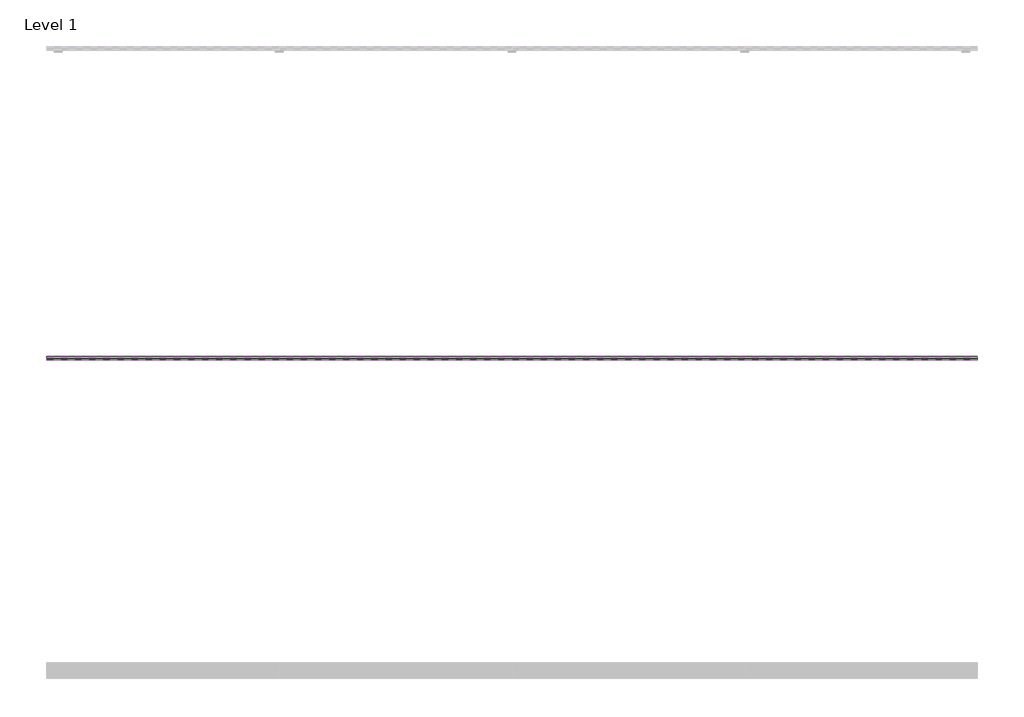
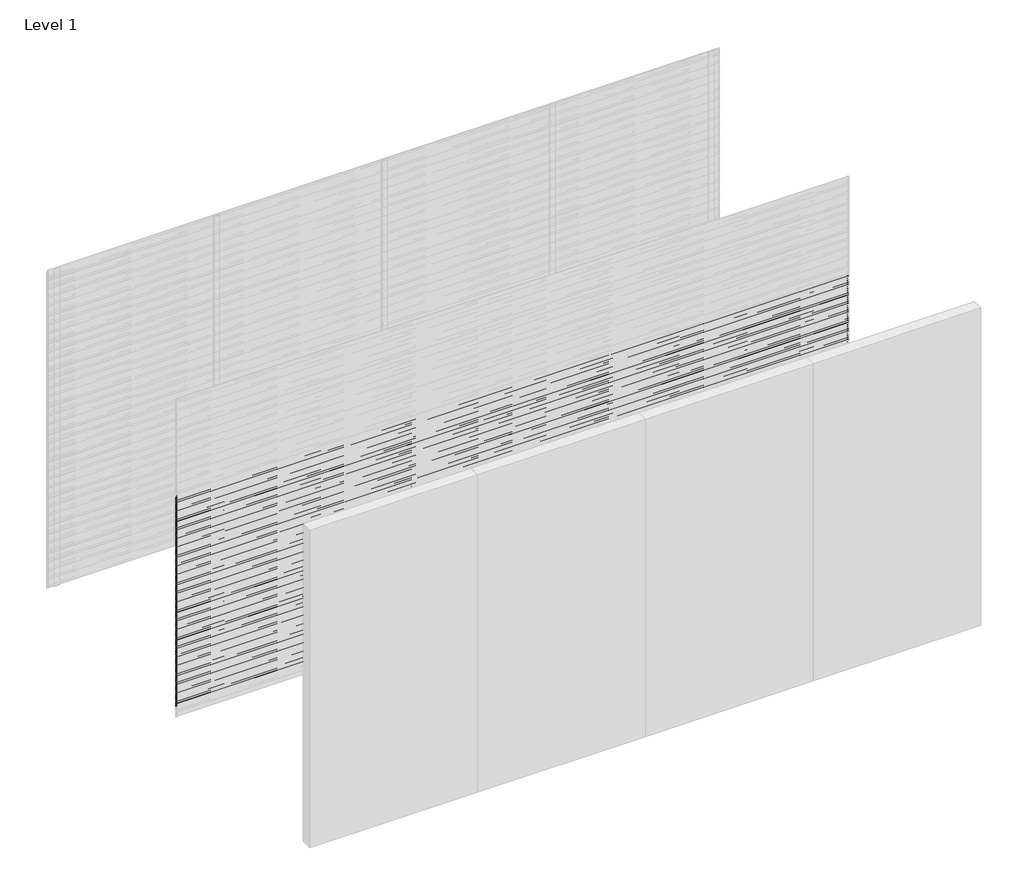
# One storey, part 25 of 31: 99 proxies.
"""IFC4 building model written with IfcOpenShell, lengths in millimetres."""

from ifc_helpers import new_model, si_unit, frame, origin, place, context, project, spatial, polyline, outline, extrude, element, save

model = new_model("IFC4")

# Units and contexts
model_context = context("Model", 3, world=origin())
ifc_project = project(units=[si_unit("LENGTHUNIT", "METRE", prefix="MILLI")], contexts=[model_context])

# Site, building, storey
site = spatial("IfcSite", under=ifc_project)
building = spatial("IfcBuilding", under=site)
storey = spatial("IfcBuildingStorey", under=building, Name="Level 1", Elevation=0.0)

# Proxies
placement = place(None, origin())
element("IfcBuildingElementProxy", 1, Name="Wall Sweeps", at=placement, inside=storey, context=model_context, shape_type="SweptSolid", body=[
    extrude(outline(polyline([(-1995.0, 2080.0), (-1995.0, 2068.942893), (-1976.0, 2053.0), (-1976.0, 2040.0), (-1997.0, 2057.6210923), (-1997.0, 2080.0), (-1995.0, 2080.0)])), frame((0.0, 0.0, 0.0), z_axis=(1.0, 0.0, 0.0), x_axis=(0.0, 1.0, 0.0)), (0.0, 0.0, 1.0), 6000.0),
])
element("IfcBuildingElementProxy", 2, Name="Wall Sweeps", at=placement, inside=storey, context=model_context, shape_type="SweptSolid", body=[
    extrude(outline(polyline([(-1995.0, 2060.0), (-1995.0, 2048.942893), (-1976.0, 2033.0), (-1976.0, 2020.0), (-1997.0, 2037.6210923), (-1997.0, 2060.0), (-1995.0, 2060.0)])), frame((0.0, 0.0, 0.0), z_axis=(1.0, 0.0, 0.0), x_axis=(0.0, 1.0, 0.0)), (0.0, 0.0, 1.0), 6000.0),
])
element("IfcBuildingElementProxy", 3, Name="Wall Sweeps", at=placement, inside=storey, context=model_context, shape_type="SweptSolid", body=[
    extrude(outline(polyline([(-1995.0, 2040.0), (-1995.0, 2028.942893), (-1976.0, 2013.0), (-1976.0, 2000.0), (-1997.0, 2017.6210923), (-1997.0, 2040.0), (-1995.0, 2040.0)])), frame((0.0, 0.0, 0.0), z_axis=(1.0, 0.0, 0.0), x_axis=(0.0, 1.0, 0.0)), (0.0, 0.0, 1.0), 6000.0),
])
element("IfcBuildingElementProxy", 4, Name="Wall Sweeps", at=placement, inside=storey, context=model_context, shape_type="SweptSolid", body=[
    extrude(outline(polyline([(-1995.0, 2020.0), (-1995.0, 2008.942893), (-1976.0, 1993.0), (-1976.0, 1980.0), (-1997.0, 1997.6210923), (-1997.0, 2020.0), (-1995.0, 2020.0)])), frame((0.0, 0.0, 0.0), z_axis=(1.0, 0.0, 0.0), x_axis=(0.0, 1.0, 0.0)), (0.0, 0.0, 1.0), 6000.0),
])
element("IfcBuildingElementProxy", 5, Name="Wall Sweeps", at=placement, inside=storey, context=model_context, shape_type="SweptSolid", body=[
    extrude(outline(polyline([(-1995.0, 2000.0), (-1995.0, 1988.942893), (-1976.0, 1973.0), (-1976.0, 1960.0), (-1997.0, 1977.6210923), (-1997.0, 2000.0), (-1995.0, 2000.0)])), frame((0.0, 0.0, 0.0), z_axis=(1.0, 0.0, 0.0), x_axis=(0.0, 1.0, 0.0)), (0.0, 0.0, 1.0), 6000.0),
])
element("IfcBuildingElementProxy", 6, Name="Wall Sweeps", at=placement, inside=storey, context=model_context, shape_type="SweptSolid", body=[
    extrude(outline(polyline([(-1995.0, 1980.0), (-1995.0, 1968.942893), (-1976.0, 1953.0), (-1976.0, 1940.0), (-1997.0, 1957.6210923), (-1997.0, 1980.0), (-1995.0, 1980.0)])), frame((0.0, 0.0, 0.0), z_axis=(1.0, 0.0, 0.0), x_axis=(0.0, 1.0, 0.0)), (0.0, 0.0, 1.0), 6000.0),
])
element("IfcBuildingElementProxy", 7, Name="Wall Sweeps", at=placement, inside=storey, context=model_context, shape_type="SweptSolid", body=[
    extrude(outline(polyline([(-1995.0, 1960.0), (-1995.0, 1948.942893), (-1976.0, 1933.0), (-1976.0, 1920.0), (-1997.0, 1937.6210923), (-1997.0, 1960.0), (-1995.0, 1960.0)])), frame((0.0, 0.0, 0.0), z_axis=(1.0, 0.0, 0.0), x_axis=(0.0, 1.0, 0.0)), (0.0, 0.0, 1.0), 6000.0),
])
element("IfcBuildingElementProxy", 8, Name="Wall Sweeps", at=placement, inside=storey, context=model_context, shape_type="SweptSolid", body=[
    extrude(outline(polyline([(-1995.0, 1940.0), (-1995.0, 1928.942893), (-1976.0, 1913.0), (-1976.0, 1900.0), (-1997.0, 1917.6210923), (-1997.0, 1940.0), (-1995.0, 1940.0)])), frame((0.0, 0.0, 0.0), z_axis=(1.0, 0.0, 0.0), x_axis=(0.0, 1.0, 0.0)), (0.0, 0.0, 1.0), 6000.0),
])
element("IfcBuildingElementProxy", 9, Name="Wall Sweeps", at=placement, inside=storey, context=model_context, shape_type="SweptSolid", body=[
    extrude(outline(polyline([(-1995.0, 1920.0), (-1995.0, 1908.942893), (-1976.0, 1893.0), (-1976.0, 1880.0), (-1997.0, 1897.6210923), (-1997.0, 1920.0), (-1995.0, 1920.0)])), frame((0.0, 0.0, 0.0), z_axis=(1.0, 0.0, 0.0), x_axis=(0.0, 1.0, 0.0)), (0.0, 0.0, 1.0), 6000.0),
])
element("IfcBuildingElementProxy", 10, Name="Wall Sweeps", at=placement, inside=storey, context=model_context, shape_type="SweptSolid", body=[
    extrude(outline(polyline([(-1995.0, 1900.0), (-1995.0, 1888.942893), (-1976.0, 1873.0), (-1976.0, 1860.0), (-1997.0, 1877.6210923), (-1997.0, 1900.0), (-1995.0, 1900.0)])), frame((0.0, 0.0, 0.0), z_axis=(1.0, 0.0, 0.0), x_axis=(0.0, 1.0, 0.0)), (0.0, 0.0, 1.0), 6000.0),
])
element("IfcBuildingElementProxy", 11, Name="Wall Sweeps", at=placement, inside=storey, context=model_context, shape_type="SweptSolid", body=[
    extrude(outline(polyline([(-1995.0, 1880.0), (-1995.0, 1868.942893), (-1976.0, 1853.0), (-1976.0, 1840.0), (-1997.0, 1857.6210923), (-1997.0, 1880.0), (-1995.0, 1880.0)])), frame((0.0, 0.0, 0.0), z_axis=(1.0, 0.0, 0.0), x_axis=(0.0, 1.0, 0.0)), (0.0, 0.0, 1.0), 6000.0),
])
element("IfcBuildingElementProxy", 12, Name="Wall Sweeps", at=placement, inside=storey, context=model_context, shape_type="SweptSolid", body=[
    extrude(outline(polyline([(-1995.0, 1860.0), (-1995.0, 1848.942893), (-1976.0, 1833.0), (-1976.0, 1820.0), (-1997.0, 1837.6210923), (-1997.0, 1860.0), (-1995.0, 1860.0)])), frame((0.0, 0.0, 0.0), z_axis=(1.0, 0.0, 0.0), x_axis=(0.0, 1.0, 0.0)), (0.0, 0.0, 1.0), 6000.0),
])
element("IfcBuildingElementProxy", 13, Name="Wall Sweeps", at=placement, inside=storey, context=model_context, shape_type="SweptSolid", body=[
    extrude(outline(polyline([(-1995.0, 1840.0), (-1995.0, 1828.942893), (-1976.0, 1813.0), (-1976.0, 1800.0), (-1997.0, 1817.6210923), (-1997.0, 1840.0), (-1995.0, 1840.0)])), frame((0.0, 0.0, 0.0), z_axis=(1.0, 0.0, 0.0), x_axis=(0.0, 1.0, 0.0)), (0.0, 0.0, 1.0), 6000.0),
])
element("IfcBuildingElementProxy", 14, Name="Wall Sweeps", at=placement, inside=storey, context=model_context, shape_type="SweptSolid", body=[
    extrude(outline(polyline([(-1995.0, 1820.0), (-1995.0, 1808.942893), (-1976.0, 1793.0), (-1976.0, 1780.0), (-1997.0, 1797.6210923), (-1997.0, 1820.0), (-1995.0, 1820.0)])), frame((0.0, 0.0, 0.0), z_axis=(1.0, 0.0, 0.0), x_axis=(0.0, 1.0, 0.0)), (0.0, 0.0, 1.0), 6000.0),
])
element("IfcBuildingElementProxy", 15, Name="Wall Sweeps", at=placement, inside=storey, context=model_context, shape_type="SweptSolid", body=[
    extrude(outline(polyline([(-1995.0, 1800.0), (-1995.0, 1788.942893), (-1976.0, 1773.0), (-1976.0, 1760.0), (-1997.0, 1777.6210923), (-1997.0, 1800.0), (-1995.0, 1800.0)])), frame((0.0, 0.0, 0.0), z_axis=(1.0, 0.0, 0.0), x_axis=(0.0, 1.0, 0.0)), (0.0, 0.0, 1.0), 6000.0),
])
element("IfcBuildingElementProxy", 16, Name="Wall Sweeps", at=placement, inside=storey, context=model_context, shape_type="SweptSolid", body=[
    extrude(outline(polyline([(-1995.0, 1780.0), (-1995.0, 1768.942893), (-1976.0, 1753.0), (-1976.0, 1740.0), (-1997.0, 1757.6210923), (-1997.0, 1780.0), (-1995.0, 1780.0)])), frame((0.0, 0.0, 0.0), z_axis=(1.0, 0.0, 0.0), x_axis=(0.0, 1.0, 0.0)), (0.0, 0.0, 1.0), 6000.0),
])
element("IfcBuildingElementProxy", 17, Name="Wall Sweeps", at=placement, inside=storey, context=model_context, shape_type="SweptSolid", body=[
    extrude(outline(polyline([(-1995.0, 1760.0), (-1995.0, 1748.942893), (-1976.0, 1733.0), (-1976.0, 1720.0), (-1997.0, 1737.6210923), (-1997.0, 1760.0), (-1995.0, 1760.0)])), frame((0.0, 0.0, 0.0), z_axis=(1.0, 0.0, 0.0), x_axis=(0.0, 1.0, 0.0)), (0.0, 0.0, 1.0), 6000.0),
])
element("IfcBuildingElementProxy", 18, Name="Wall Sweeps", at=placement, inside=storey, context=model_context, shape_type="SweptSolid", body=[
    extrude(outline(polyline([(-1995.0, 1740.0), (-1995.0, 1728.942893), (-1976.0, 1713.0), (-1976.0, 1700.0), (-1997.0, 1717.6210923), (-1997.0, 1740.0), (-1995.0, 1740.0)])), frame((0.0, 0.0, 0.0), z_axis=(1.0, 0.0, 0.0), x_axis=(0.0, 1.0, 0.0)), (0.0, 0.0, 1.0), 6000.0),
])
element("IfcBuildingElementProxy", 19, Name="Wall Sweeps", at=placement, inside=storey, context=model_context, shape_type="SweptSolid", body=[
    extrude(outline(polyline([(-1995.0, 1720.0), (-1995.0, 1708.942893), (-1976.0, 1693.0), (-1976.0, 1680.0), (-1997.0, 1697.6210923), (-1997.0, 1720.0), (-1995.0, 1720.0)])), frame((0.0, 0.0, 0.0), z_axis=(1.0, 0.0, 0.0), x_axis=(0.0, 1.0, 0.0)), (0.0, 0.0, 1.0), 6000.0),
])
element("IfcBuildingElementProxy", 20, Name="Wall Sweeps", at=placement, inside=storey, context=model_context, shape_type="SweptSolid", body=[
    extrude(outline(polyline([(-1995.0, 1700.0), (-1995.0, 1688.942893), (-1976.0, 1673.0), (-1976.0, 1660.0), (-1997.0, 1677.6210923), (-1997.0, 1700.0), (-1995.0, 1700.0)])), frame((0.0, 0.0, 0.0), z_axis=(1.0, 0.0, 0.0), x_axis=(0.0, 1.0, 0.0)), (0.0, 0.0, 1.0), 6000.0),
])
element("IfcBuildingElementProxy", 21, Name="Wall Sweeps", at=placement, inside=storey, context=model_context, shape_type="SweptSolid", body=[
    extrude(outline(polyline([(-1995.0, 1680.0), (-1995.0, 1668.942893), (-1976.0, 1653.0), (-1976.0, 1640.0), (-1997.0, 1657.6210923), (-1997.0, 1680.0), (-1995.0, 1680.0)])), frame((0.0, 0.0, 0.0), z_axis=(1.0, 0.0, 0.0), x_axis=(0.0, 1.0, 0.0)), (0.0, 0.0, 1.0), 6000.0),
])
element("IfcBuildingElementProxy", 22, Name="Wall Sweeps", at=placement, inside=storey, context=model_context, shape_type="SweptSolid", body=[
    extrude(outline(polyline([(-1995.0, 1660.0), (-1995.0, 1648.942893), (-1976.0, 1633.0), (-1976.0, 1620.0), (-1997.0, 1637.6210923), (-1997.0, 1660.0), (-1995.0, 1660.0)])), frame((0.0, 0.0, 0.0), z_axis=(1.0, 0.0, 0.0), x_axis=(0.0, 1.0, 0.0)), (0.0, 0.0, 1.0), 6000.0),
])
element("IfcBuildingElementProxy", 23, Name="Wall Sweeps", at=placement, inside=storey, context=model_context, shape_type="SweptSolid", body=[
    extrude(outline(polyline([(-1995.0, 1640.0), (-1995.0, 1628.942893), (-1976.0, 1613.0), (-1976.0, 1600.0), (-1997.0, 1617.6210923), (-1997.0, 1640.0), (-1995.0, 1640.0)])), frame((0.0, 0.0, 0.0), z_axis=(1.0, 0.0, 0.0), x_axis=(0.0, 1.0, 0.0)), (0.0, 0.0, 1.0), 6000.0),
])
element("IfcBuildingElementProxy", 24, Name="Wall Sweeps", at=placement, inside=storey, context=model_context, shape_type="SweptSolid", body=[
    extrude(outline(polyline([(-1995.0, 1620.0), (-1995.0, 1608.942893), (-1976.0, 1593.0), (-1976.0, 1580.0), (-1997.0, 1597.6210923), (-1997.0, 1620.0), (-1995.0, 1620.0)])), frame((0.0, 0.0, 0.0), z_axis=(1.0, 0.0, 0.0), x_axis=(0.0, 1.0, 0.0)), (0.0, 0.0, 1.0), 6000.0),
])
element("IfcBuildingElementProxy", 25, Name="Wall Sweeps", at=placement, inside=storey, context=model_context, shape_type="SweptSolid", body=[
    extrude(outline(polyline([(-1995.0, 1600.0), (-1995.0, 1588.942893), (-1976.0, 1573.0), (-1976.0, 1560.0), (-1997.0, 1577.6210923), (-1997.0, 1600.0), (-1995.0, 1600.0)])), frame((0.0, 0.0, 0.0), z_axis=(1.0, 0.0, 0.0), x_axis=(0.0, 1.0, 0.0)), (0.0, 0.0, 1.0), 6000.0),
])
element("IfcBuildingElementProxy", 26, Name="Wall Sweeps", at=placement, inside=storey, context=model_context, shape_type="SweptSolid", body=[
    extrude(outline(polyline([(-1995.0, 1580.0), (-1995.0, 1568.942893), (-1976.0, 1553.0), (-1976.0, 1540.0), (-1997.0, 1557.6210923), (-1997.0, 1580.0), (-1995.0, 1580.0)])), frame((0.0, 0.0, 0.0), z_axis=(1.0, 0.0, 0.0), x_axis=(0.0, 1.0, 0.0)), (0.0, 0.0, 1.0), 6000.0),
])
element("IfcBuildingElementProxy", 27, Name="Wall Sweeps", at=placement, inside=storey, context=model_context, shape_type="SweptSolid", body=[
    extrude(outline(polyline([(-1995.0, 1560.0), (-1995.0, 1548.942893), (-1976.0, 1533.0), (-1976.0, 1520.0), (-1997.0, 1537.6210923), (-1997.0, 1560.0), (-1995.0, 1560.0)])), frame((0.0, 0.0, 0.0), z_axis=(1.0, 0.0, 0.0), x_axis=(0.0, 1.0, 0.0)), (0.0, 0.0, 1.0), 6000.0),
])
element("IfcBuildingElementProxy", 28, Name="Wall Sweeps", at=placement, inside=storey, context=model_context, shape_type="SweptSolid", body=[
    extrude(outline(polyline([(-1995.0, 1540.0), (-1995.0, 1528.942893), (-1976.0, 1513.0), (-1976.0, 1500.0), (-1997.0, 1517.6210923), (-1997.0, 1540.0), (-1995.0, 1540.0)])), frame((0.0, 0.0, 0.0), z_axis=(1.0, 0.0, 0.0), x_axis=(0.0, 1.0, 0.0)), (0.0, 0.0, 1.0), 6000.0),
])
element("IfcBuildingElementProxy", 29, Name="Wall Sweeps", at=placement, inside=storey, context=model_context, shape_type="SweptSolid", body=[
    extrude(outline(polyline([(-1995.0, 1520.0), (-1995.0, 1508.942893), (-1976.0, 1493.0), (-1976.0, 1480.0), (-1997.0, 1497.6210923), (-1997.0, 1520.0), (-1995.0, 1520.0)])), frame((0.0, 0.0, 0.0), z_axis=(1.0, 0.0, 0.0), x_axis=(0.0, 1.0, 0.0)), (0.0, 0.0, 1.0), 6000.0),
])
element("IfcBuildingElementProxy", 30, Name="Wall Sweeps", at=placement, inside=storey, context=model_context, shape_type="SweptSolid", body=[
    extrude(outline(polyline([(-1995.0, 1500.0), (-1995.0, 1488.942893), (-1976.0, 1473.0), (-1976.0, 1460.0), (-1997.0, 1477.6210923), (-1997.0, 1500.0), (-1995.0, 1500.0)])), frame((0.0, 0.0, 0.0), z_axis=(1.0, 0.0, 0.0), x_axis=(0.0, 1.0, 0.0)), (0.0, 0.0, 1.0), 6000.0),
])
element("IfcBuildingElementProxy", 31, Name="Wall Sweeps", at=placement, inside=storey, context=model_context, shape_type="SweptSolid", body=[
    extrude(outline(polyline([(-1995.0, 1480.0), (-1995.0, 1468.942893), (-1976.0, 1453.0), (-1976.0, 1440.0), (-1997.0, 1457.6210923), (-1997.0, 1480.0), (-1995.0, 1480.0)])), frame((0.0, 0.0, 0.0), z_axis=(1.0, 0.0, 0.0), x_axis=(0.0, 1.0, 0.0)), (0.0, 0.0, 1.0), 6000.0),
])
element("IfcBuildingElementProxy", 32, Name="Wall Sweeps", at=placement, inside=storey, context=model_context, shape_type="SweptSolid", body=[
    extrude(outline(polyline([(-1995.0, 1460.0), (-1995.0, 1448.942893), (-1976.0, 1433.0), (-1976.0, 1420.0), (-1997.0, 1437.6210923), (-1997.0, 1460.0), (-1995.0, 1460.0)])), frame((0.0, 0.0, 0.0), z_axis=(1.0, 0.0, 0.0), x_axis=(0.0, 1.0, 0.0)), (0.0, 0.0, 1.0), 6000.0),
])
element("IfcBuildingElementProxy", 33, Name="Wall Sweeps", at=placement, inside=storey, context=model_context, shape_type="SweptSolid", body=[
    extrude(outline(polyline([(-1995.0, 1440.0), (-1995.0, 1428.942893), (-1976.0, 1413.0), (-1976.0, 1400.0), (-1997.0, 1417.6210923), (-1997.0, 1440.0), (-1995.0, 1440.0)])), frame((0.0, 0.0, 0.0), z_axis=(1.0, 0.0, 0.0), x_axis=(0.0, 1.0, 0.0)), (0.0, 0.0, 1.0), 6000.0),
])
element("IfcBuildingElementProxy", 34, Name="Wall Sweeps", at=placement, inside=storey, context=model_context, shape_type="SweptSolid", body=[
    extrude(outline(polyline([(-1995.0, 1420.0), (-1995.0, 1408.942893), (-1976.0, 1393.0), (-1976.0, 1380.0), (-1997.0, 1397.6210923), (-1997.0, 1420.0), (-1995.0, 1420.0)])), frame((0.0, 0.0, 0.0), z_axis=(1.0, 0.0, 0.0), x_axis=(0.0, 1.0, 0.0)), (0.0, 0.0, 1.0), 6000.0),
])
element("IfcBuildingElementProxy", 35, Name="Wall Sweeps", at=placement, inside=storey, context=model_context, shape_type="SweptSolid", body=[
    extrude(outline(polyline([(-1995.0, 1400.0), (-1995.0, 1388.942893), (-1976.0, 1373.0), (-1976.0, 1360.0), (-1997.0, 1377.6210923), (-1997.0, 1400.0), (-1995.0, 1400.0)])), frame((0.0, 0.0, 0.0), z_axis=(1.0, 0.0, 0.0), x_axis=(0.0, 1.0, 0.0)), (0.0, 0.0, 1.0), 6000.0),
])
element("IfcBuildingElementProxy", 36, Name="Wall Sweeps", at=placement, inside=storey, context=model_context, shape_type="SweptSolid", body=[
    extrude(outline(polyline([(-1995.0, 1380.0), (-1995.0, 1368.942893), (-1976.0, 1353.0), (-1976.0, 1340.0), (-1997.0, 1357.6210923), (-1997.0, 1380.0), (-1995.0, 1380.0)])), frame((0.0, 0.0, 0.0), z_axis=(1.0, 0.0, 0.0), x_axis=(0.0, 1.0, 0.0)), (0.0, 0.0, 1.0), 6000.0),
])
element("IfcBuildingElementProxy", 37, Name="Wall Sweeps", at=placement, inside=storey, context=model_context, shape_type="SweptSolid", body=[
    extrude(outline(polyline([(-1995.0, 1360.0), (-1995.0, 1348.942893), (-1976.0, 1333.0), (-1976.0, 1320.0), (-1997.0, 1337.6210923), (-1997.0, 1360.0), (-1995.0, 1360.0)])), frame((0.0, 0.0, 0.0), z_axis=(1.0, 0.0, 0.0), x_axis=(0.0, 1.0, 0.0)), (0.0, 0.0, 1.0), 6000.0),
])
element("IfcBuildingElementProxy", 38, Name="Wall Sweeps", at=placement, inside=storey, context=model_context, shape_type="SweptSolid", body=[
    extrude(outline(polyline([(-1995.0, 1340.0), (-1995.0, 1328.942893), (-1976.0, 1313.0), (-1976.0, 1300.0), (-1997.0, 1317.6210923), (-1997.0, 1340.0), (-1995.0, 1340.0)])), frame((0.0, 0.0, 0.0), z_axis=(1.0, 0.0, 0.0), x_axis=(0.0, 1.0, 0.0)), (0.0, 0.0, 1.0), 6000.0),
])
element("IfcBuildingElementProxy", 39, Name="Wall Sweeps", at=placement, inside=storey, context=model_context, shape_type="SweptSolid", body=[
    extrude(outline(polyline([(-1995.0, 1320.0), (-1995.0, 1308.942893), (-1976.0, 1293.0), (-1976.0, 1280.0), (-1997.0, 1297.6210923), (-1997.0, 1320.0), (-1995.0, 1320.0)])), frame((0.0, 0.0, 0.0), z_axis=(1.0, 0.0, 0.0), x_axis=(0.0, 1.0, 0.0)), (0.0, 0.0, 1.0), 6000.0),
])
element("IfcBuildingElementProxy", 40, Name="Wall Sweeps", at=placement, inside=storey, context=model_context, shape_type="SweptSolid", body=[
    extrude(outline(polyline([(-1995.0, 1300.0), (-1995.0, 1288.942893), (-1976.0, 1273.0), (-1976.0, 1260.0), (-1997.0, 1277.6210923), (-1997.0, 1300.0), (-1995.0, 1300.0)])), frame((0.0, 0.0, 0.0), z_axis=(1.0, 0.0, 0.0), x_axis=(0.0, 1.0, 0.0)), (0.0, 0.0, 1.0), 6000.0),
])
element("IfcBuildingElementProxy", 41, Name="Wall Sweeps", at=placement, inside=storey, context=model_context, shape_type="SweptSolid", body=[
    extrude(outline(polyline([(-1995.0, 1280.0), (-1995.0, 1268.942893), (-1976.0, 1253.0), (-1976.0, 1240.0), (-1997.0, 1257.6210923), (-1997.0, 1280.0), (-1995.0, 1280.0)])), frame((0.0, 0.0, 0.0), z_axis=(1.0, 0.0, 0.0), x_axis=(0.0, 1.0, 0.0)), (0.0, 0.0, 1.0), 6000.0),
])
element("IfcBuildingElementProxy", 42, Name="Wall Sweeps", at=placement, inside=storey, context=model_context, shape_type="SweptSolid", body=[
    extrude(outline(polyline([(-1995.0, 1260.0), (-1995.0, 1248.942893), (-1976.0, 1233.0), (-1976.0, 1220.0), (-1997.0, 1237.6210923), (-1997.0, 1260.0), (-1995.0, 1260.0)])), frame((0.0, 0.0, 0.0), z_axis=(1.0, 0.0, 0.0), x_axis=(0.0, 1.0, 0.0)), (0.0, 0.0, 1.0), 6000.0),
])
element("IfcBuildingElementProxy", 43, Name="Wall Sweeps", at=placement, inside=storey, context=model_context, shape_type="SweptSolid", body=[
    extrude(outline(polyline([(-1995.0, 1240.0), (-1995.0, 1228.942893), (-1976.0, 1213.0), (-1976.0, 1200.0), (-1997.0, 1217.6210923), (-1997.0, 1240.0), (-1995.0, 1240.0)])), frame((0.0, 0.0, 0.0), z_axis=(1.0, 0.0, 0.0), x_axis=(0.0, 1.0, 0.0)), (0.0, 0.0, 1.0), 6000.0),
])
element("IfcBuildingElementProxy", 44, Name="Wall Sweeps", at=placement, inside=storey, context=model_context, shape_type="SweptSolid", body=[
    extrude(outline(polyline([(-1995.0, 1220.0), (-1995.0, 1208.942893), (-1976.0, 1193.0), (-1976.0, 1180.0), (-1997.0, 1197.6210923), (-1997.0, 1220.0), (-1995.0, 1220.0)])), frame((0.0, 0.0, 0.0), z_axis=(1.0, 0.0, 0.0), x_axis=(0.0, 1.0, 0.0)), (0.0, 0.0, 1.0), 6000.0),
])
element("IfcBuildingElementProxy", 45, Name="Wall Sweeps", at=placement, inside=storey, context=model_context, shape_type="SweptSolid", body=[
    extrude(outline(polyline([(-1995.0, 1200.0), (-1995.0, 1188.942893), (-1976.0, 1173.0), (-1976.0, 1160.0), (-1997.0, 1177.6210923), (-1997.0, 1200.0), (-1995.0, 1200.0)])), frame((0.0, 0.0, 0.0), z_axis=(1.0, 0.0, 0.0), x_axis=(0.0, 1.0, 0.0)), (0.0, 0.0, 1.0), 6000.0),
])
element("IfcBuildingElementProxy", 46, Name="Wall Sweeps", at=placement, inside=storey, context=model_context, shape_type="SweptSolid", body=[
    extrude(outline(polyline([(-1995.0, 1180.0), (-1995.0, 1168.942893), (-1976.0, 1153.0), (-1976.0, 1140.0), (-1997.0, 1157.6210923), (-1997.0, 1180.0), (-1995.0, 1180.0)])), frame((0.0, 0.0, 0.0), z_axis=(1.0, 0.0, 0.0), x_axis=(0.0, 1.0, 0.0)), (0.0, 0.0, 1.0), 6000.0),
])
element("IfcBuildingElementProxy", 47, Name="Wall Sweeps", at=placement, inside=storey, context=model_context, shape_type="SweptSolid", body=[
    extrude(outline(polyline([(-1995.0, 1160.0), (-1995.0, 1148.942893), (-1976.0, 1133.0), (-1976.0, 1120.0), (-1997.0, 1137.6210923), (-1997.0, 1160.0), (-1995.0, 1160.0)])), frame((0.0, 0.0, 0.0), z_axis=(1.0, 0.0, 0.0), x_axis=(0.0, 1.0, 0.0)), (0.0, 0.0, 1.0), 6000.0),
])
element("IfcBuildingElementProxy", 48, Name="Wall Sweeps", at=placement, inside=storey, context=model_context, shape_type="SweptSolid", body=[
    extrude(outline(polyline([(-1995.0, 1140.0), (-1995.0, 1128.942893), (-1976.0, 1113.0), (-1976.0, 1100.0), (-1997.0, 1117.6210923), (-1997.0, 1140.0), (-1995.0, 1140.0)])), frame((0.0, 0.0, 0.0), z_axis=(1.0, 0.0, 0.0), x_axis=(0.0, 1.0, 0.0)), (0.0, 0.0, 1.0), 6000.0),
])
element("IfcBuildingElementProxy", 49, Name="Wall Sweeps", at=placement, inside=storey, context=model_context, shape_type="SweptSolid", body=[
    extrude(outline(polyline([(-1995.0, 1120.0), (-1995.0, 1108.942893), (-1976.0, 1093.0), (-1976.0, 1080.0), (-1997.0, 1097.6210923), (-1997.0, 1120.0), (-1995.0, 1120.0)])), frame((0.0, 0.0, 0.0), z_axis=(1.0, 0.0, 0.0), x_axis=(0.0, 1.0, 0.0)), (0.0, 0.0, 1.0), 6000.0),
])
element("IfcBuildingElementProxy", 50, Name="Wall Sweeps", at=placement, inside=storey, context=model_context, shape_type="SweptSolid", body=[
    extrude(outline(polyline([(-1995.0, 1100.0), (-1995.0, 1088.942893), (-1976.0, 1073.0), (-1976.0, 1060.0), (-1997.0, 1077.6210923), (-1997.0, 1100.0), (-1995.0, 1100.0)])), frame((0.0, 0.0, 0.0), z_axis=(1.0, 0.0, 0.0), x_axis=(0.0, 1.0, 0.0)), (0.0, 0.0, 1.0), 6000.0),
])
element("IfcBuildingElementProxy", 51, Name="Wall Sweeps", at=placement, inside=storey, context=model_context, shape_type="SweptSolid", body=[
    extrude(outline(polyline([(-1995.0, 1080.0), (-1995.0, 1068.942893), (-1976.0, 1053.0), (-1976.0, 1040.0), (-1997.0, 1057.6210923), (-1997.0, 1080.0), (-1995.0, 1080.0)])), frame((0.0, 0.0, 0.0), z_axis=(1.0, 0.0, 0.0), x_axis=(0.0, 1.0, 0.0)), (0.0, 0.0, 1.0), 6000.0),
])
element("IfcBuildingElementProxy", 52, Name="Wall Sweeps", at=placement, inside=storey, context=model_context, shape_type="SweptSolid", body=[
    extrude(outline(polyline([(-1995.0, 1060.0), (-1995.0, 1048.942893), (-1976.0, 1033.0), (-1976.0, 1020.0), (-1997.0, 1037.6210923), (-1997.0, 1060.0), (-1995.0, 1060.0)])), frame((0.0, 0.0, 0.0), z_axis=(1.0, 0.0, 0.0), x_axis=(0.0, 1.0, 0.0)), (0.0, 0.0, 1.0), 6000.0),
])
element("IfcBuildingElementProxy", 53, Name="Wall Sweeps", at=placement, inside=storey, context=model_context, shape_type="SweptSolid", body=[
    extrude(outline(polyline([(-1995.0, 1040.0), (-1995.0, 1028.942893), (-1976.0, 1013.0), (-1976.0, 1000.0), (-1997.0, 1017.6210923), (-1997.0, 1040.0), (-1995.0, 1040.0)])), frame((0.0, 0.0, 0.0), z_axis=(1.0, 0.0, 0.0), x_axis=(0.0, 1.0, 0.0)), (0.0, 0.0, 1.0), 6000.0),
])
element("IfcBuildingElementProxy", 54, Name="Wall Sweeps", at=placement, inside=storey, context=model_context, shape_type="SweptSolid", body=[
    extrude(outline(polyline([(-1995.0, 1020.0), (-1995.0, 1008.942893), (-1976.0, 993.0), (-1976.0, 980.0), (-1997.0, 997.6210923), (-1997.0, 1020.0), (-1995.0, 1020.0)])), frame((0.0, 0.0, 0.0), z_axis=(1.0, 0.0, 0.0), x_axis=(0.0, 1.0, 0.0)), (0.0, 0.0, 1.0), 6000.0),
])
element("IfcBuildingElementProxy", 55, Name="Wall Sweeps", at=placement, inside=storey, context=model_context, shape_type="SweptSolid", body=[
    extrude(outline(polyline([(-1995.0, 1000.0), (-1995.0, 988.942893), (-1976.0, 973.0), (-1976.0, 960.0), (-1997.0, 977.6210923), (-1997.0, 1000.0), (-1995.0, 1000.0)])), frame((0.0, 0.0, 0.0), z_axis=(1.0, 0.0, 0.0), x_axis=(0.0, 1.0, 0.0)), (0.0, 0.0, 1.0), 6000.0),
])
element("IfcBuildingElementProxy", 56, Name="Wall Sweeps", at=placement, inside=storey, context=model_context, shape_type="SweptSolid", body=[
    extrude(outline(polyline([(-1995.0, 980.0), (-1995.0, 968.942893), (-1976.0, 953.0), (-1976.0, 940.0), (-1997.0, 957.6210923), (-1997.0, 980.0), (-1995.0, 980.0)])), frame((0.0, 0.0, 0.0), z_axis=(1.0, 0.0, 0.0), x_axis=(0.0, 1.0, 0.0)), (0.0, 0.0, 1.0), 6000.0),
])
element("IfcBuildingElementProxy", 57, Name="Wall Sweeps", at=placement, inside=storey, context=model_context, shape_type="SweptSolid", body=[
    extrude(outline(polyline([(-1995.0, 960.0), (-1995.0, 948.942893), (-1976.0, 933.0), (-1976.0, 920.0), (-1997.0, 937.6210923), (-1997.0, 960.0), (-1995.0, 960.0)])), frame((0.0, 0.0, 0.0), z_axis=(1.0, 0.0, 0.0), x_axis=(0.0, 1.0, 0.0)), (0.0, 0.0, 1.0), 6000.0),
])
element("IfcBuildingElementProxy", 58, Name="Wall Sweeps", at=placement, inside=storey, context=model_context, shape_type="SweptSolid", body=[
    extrude(outline(polyline([(-1995.0, 940.0), (-1995.0, 928.942893), (-1976.0, 913.0), (-1976.0, 900.0), (-1997.0, 917.6210923), (-1997.0, 940.0), (-1995.0, 940.0)])), frame((0.0, 0.0, 0.0), z_axis=(1.0, 0.0, 0.0), x_axis=(0.0, 1.0, 0.0)), (0.0, 0.0, 1.0), 6000.0),
])
element("IfcBuildingElementProxy", 59, Name="Wall Sweeps", at=placement, inside=storey, context=model_context, shape_type="SweptSolid", body=[
    extrude(outline(polyline([(-1995.0, 920.0), (-1995.0, 908.942893), (-1976.0, 893.0), (-1976.0, 880.0), (-1997.0, 897.6210923), (-1997.0, 920.0), (-1995.0, 920.0)])), frame((0.0, 0.0, 0.0), z_axis=(1.0, 0.0, 0.0), x_axis=(0.0, 1.0, 0.0)), (0.0, 0.0, 1.0), 6000.0),
])
element("IfcBuildingElementProxy", 60, Name="Wall Sweeps", at=placement, inside=storey, context=model_context, shape_type="SweptSolid", body=[
    extrude(outline(polyline([(-1995.0, 900.0), (-1995.0, 888.942893), (-1976.0, 873.0), (-1976.0, 860.0), (-1997.0, 877.6210923), (-1997.0, 900.0), (-1995.0, 900.0)])), frame((0.0, 0.0, 0.0), z_axis=(1.0, 0.0, 0.0), x_axis=(0.0, 1.0, 0.0)), (0.0, 0.0, 1.0), 6000.0),
])
element("IfcBuildingElementProxy", 61, Name="Wall Sweeps", at=placement, inside=storey, context=model_context, shape_type="SweptSolid", body=[
    extrude(outline(polyline([(-1995.0, 880.0), (-1995.0, 868.942893), (-1976.0, 853.0), (-1976.0, 840.0), (-1997.0, 857.6210923), (-1997.0, 880.0), (-1995.0, 880.0)])), frame((0.0, 0.0, 0.0), z_axis=(1.0, 0.0, 0.0), x_axis=(0.0, 1.0, 0.0)), (0.0, 0.0, 1.0), 6000.0),
])
element("IfcBuildingElementProxy", 62, Name="Wall Sweeps", at=placement, inside=storey, context=model_context, shape_type="SweptSolid", body=[
    extrude(outline(polyline([(-1995.0, 860.0), (-1995.0, 848.942893), (-1976.0, 833.0), (-1976.0, 820.0), (-1997.0, 837.6210923), (-1997.0, 860.0), (-1995.0, 860.0)])), frame((0.0, 0.0, 0.0), z_axis=(1.0, 0.0, 0.0), x_axis=(0.0, 1.0, 0.0)), (0.0, 0.0, 1.0), 6000.0),
])
element("IfcBuildingElementProxy", 63, Name="Wall Sweeps", at=placement, inside=storey, context=model_context, shape_type="SweptSolid", body=[
    extrude(outline(polyline([(-1995.0, 840.0), (-1995.0, 828.942893), (-1976.0, 813.0), (-1976.0, 800.0), (-1997.0, 817.6210923), (-1997.0, 840.0), (-1995.0, 840.0)])), frame((0.0, 0.0, 0.0), z_axis=(1.0, 0.0, 0.0), x_axis=(0.0, 1.0, 0.0)), (0.0, 0.0, 1.0), 6000.0),
])
element("IfcBuildingElementProxy", 64, Name="Wall Sweeps", at=placement, inside=storey, context=model_context, shape_type="SweptSolid", body=[
    extrude(outline(polyline([(-1995.0, 820.0), (-1995.0, 808.942893), (-1976.0, 793.0), (-1976.0, 780.0), (-1997.0, 797.6210923), (-1997.0, 820.0), (-1995.0, 820.0)])), frame((0.0, 0.0, 0.0), z_axis=(1.0, 0.0, 0.0), x_axis=(0.0, 1.0, 0.0)), (0.0, 0.0, 1.0), 6000.0),
])
element("IfcBuildingElementProxy", 65, Name="Wall Sweeps", at=placement, inside=storey, context=model_context, shape_type="SweptSolid", body=[
    extrude(outline(polyline([(-1995.0, 800.0), (-1995.0, 788.942893), (-1976.0, 773.0), (-1976.0, 760.0), (-1997.0, 777.6210923), (-1997.0, 800.0), (-1995.0, 800.0)])), frame((0.0, 0.0, 0.0), z_axis=(1.0, 0.0, 0.0), x_axis=(0.0, 1.0, 0.0)), (0.0, 0.0, 1.0), 6000.0),
])
element("IfcBuildingElementProxy", 66, Name="Wall Sweeps", at=placement, inside=storey, context=model_context, shape_type="SweptSolid", body=[
    extrude(outline(polyline([(-1995.0, 780.0), (-1995.0, 768.942893), (-1976.0, 753.0), (-1976.0, 740.0), (-1997.0, 757.6210923), (-1997.0, 780.0), (-1995.0, 780.0)])), frame((0.0, 0.0, 0.0), z_axis=(1.0, 0.0, 0.0), x_axis=(0.0, 1.0, 0.0)), (0.0, 0.0, 1.0), 6000.0),
])
element("IfcBuildingElementProxy", 67, Name="Wall Sweeps", at=placement, inside=storey, context=model_context, shape_type="SweptSolid", body=[
    extrude(outline(polyline([(-1995.0, 760.0), (-1995.0, 748.942893), (-1976.0, 733.0), (-1976.0, 720.0), (-1997.0, 737.6210923), (-1997.0, 760.0), (-1995.0, 760.0)])), frame((0.0, 0.0, 0.0), z_axis=(1.0, 0.0, 0.0), x_axis=(0.0, 1.0, 0.0)), (0.0, 0.0, 1.0), 6000.0),
])
element("IfcBuildingElementProxy", 68, Name="Wall Sweeps", at=placement, inside=storey, context=model_context, shape_type="SweptSolid", body=[
    extrude(outline(polyline([(-1995.0, 740.0), (-1995.0, 728.942893), (-1976.0, 713.0), (-1976.0, 700.0), (-1997.0, 717.6210923), (-1997.0, 740.0), (-1995.0, 740.0)])), frame((0.0, 0.0, 0.0), z_axis=(1.0, 0.0, 0.0), x_axis=(0.0, 1.0, 0.0)), (0.0, 0.0, 1.0), 6000.0),
])
element("IfcBuildingElementProxy", 69, Name="Wall Sweeps", at=placement, inside=storey, context=model_context, shape_type="SweptSolid", body=[
    extrude(outline(polyline([(-1995.0, 720.0), (-1995.0, 708.942893), (-1976.0, 693.0), (-1976.0, 680.0), (-1997.0, 697.6210923), (-1997.0, 720.0), (-1995.0, 720.0)])), frame((0.0, 0.0, 0.0), z_axis=(1.0, 0.0, 0.0), x_axis=(0.0, 1.0, 0.0)), (0.0, 0.0, 1.0), 6000.0),
])
element("IfcBuildingElementProxy", 70, Name="Wall Sweeps", at=placement, inside=storey, context=model_context, shape_type="SweptSolid", body=[
    extrude(outline(polyline([(-1995.0, 700.0), (-1995.0, 688.942893), (-1976.0, 673.0), (-1976.0, 660.0), (-1997.0, 677.6210923), (-1997.0, 700.0), (-1995.0, 700.0)])), frame((0.0, 0.0, 0.0), z_axis=(1.0, 0.0, 0.0), x_axis=(0.0, 1.0, 0.0)), (0.0, 0.0, 1.0), 6000.0),
])
element("IfcBuildingElementProxy", 71, Name="Wall Sweeps", at=placement, inside=storey, context=model_context, shape_type="SweptSolid", body=[
    extrude(outline(polyline([(-1995.0, 680.0), (-1995.0, 668.942893), (-1976.0, 653.0), (-1976.0, 640.0), (-1997.0, 657.6210923), (-1997.0, 680.0), (-1995.0, 680.0)])), frame((0.0, 0.0, 0.0), z_axis=(1.0, 0.0, 0.0), x_axis=(0.0, 1.0, 0.0)), (0.0, 0.0, 1.0), 6000.0),
])
element("IfcBuildingElementProxy", 72, Name="Wall Sweeps", at=placement, inside=storey, context=model_context, shape_type="SweptSolid", body=[
    extrude(outline(polyline([(-1995.0, 660.0), (-1995.0, 648.942893), (-1976.0, 633.0), (-1976.0, 620.0), (-1997.0, 637.6210923), (-1997.0, 660.0), (-1995.0, 660.0)])), frame((0.0, 0.0, 0.0), z_axis=(1.0, 0.0, 0.0), x_axis=(0.0, 1.0, 0.0)), (0.0, 0.0, 1.0), 6000.0),
])
element("IfcBuildingElementProxy", 73, Name="Wall Sweeps", at=placement, inside=storey, context=model_context, shape_type="SweptSolid", body=[
    extrude(outline(polyline([(-1995.0, 640.0), (-1995.0, 628.942893), (-1976.0, 613.0), (-1976.0, 600.0), (-1997.0, 617.6210923), (-1997.0, 640.0), (-1995.0, 640.0)])), frame((0.0, 0.0, 0.0), z_axis=(1.0, 0.0, 0.0), x_axis=(0.0, 1.0, 0.0)), (0.0, 0.0, 1.0), 6000.0),
])
element("IfcBuildingElementProxy", 74, Name="Wall Sweeps", at=placement, inside=storey, context=model_context, shape_type="SweptSolid", body=[
    extrude(outline(polyline([(-1995.0, 620.0), (-1995.0, 608.942893), (-1976.0, 593.0), (-1976.0, 580.0), (-1997.0, 597.6210923), (-1997.0, 620.0), (-1995.0, 620.0)])), frame((0.0, 0.0, 0.0), z_axis=(1.0, 0.0, 0.0), x_axis=(0.0, 1.0, 0.0)), (0.0, 0.0, 1.0), 6000.0),
])
element("IfcBuildingElementProxy", 75, Name="Wall Sweeps", at=placement, inside=storey, context=model_context, shape_type="SweptSolid", body=[
    extrude(outline(polyline([(-1995.0, 600.0), (-1995.0, 588.942893), (-1976.0, 573.0), (-1976.0, 560.0), (-1997.0, 577.6210923), (-1997.0, 600.0), (-1995.0, 600.0)])), frame((0.0, 0.0, 0.0), z_axis=(1.0, 0.0, 0.0), x_axis=(0.0, 1.0, 0.0)), (0.0, 0.0, 1.0), 6000.0),
])
element("IfcBuildingElementProxy", 76, Name="Wall Sweeps", at=placement, inside=storey, context=model_context, shape_type="SweptSolid", body=[
    extrude(outline(polyline([(-1995.0, 580.0), (-1995.0, 568.942893), (-1976.0, 553.0), (-1976.0, 540.0), (-1997.0, 557.6210923), (-1997.0, 580.0), (-1995.0, 580.0)])), frame((0.0, 0.0, 0.0), z_axis=(1.0, 0.0, 0.0), x_axis=(0.0, 1.0, 0.0)), (0.0, 0.0, 1.0), 6000.0),
])
element("IfcBuildingElementProxy", 77, Name="Wall Sweeps", at=placement, inside=storey, context=model_context, shape_type="SweptSolid", body=[
    extrude(outline(polyline([(-1995.0, 560.0), (-1995.0, 548.942893), (-1976.0, 533.0), (-1976.0, 520.0), (-1997.0, 537.6210923), (-1997.0, 560.0), (-1995.0, 560.0)])), frame((0.0, 0.0, 0.0), z_axis=(1.0, 0.0, 0.0), x_axis=(0.0, 1.0, 0.0)), (0.0, 0.0, 1.0), 6000.0),
])
element("IfcBuildingElementProxy", 78, Name="Wall Sweeps", at=placement, inside=storey, context=model_context, shape_type="SweptSolid", body=[
    extrude(outline(polyline([(-1995.0, 540.0), (-1995.0, 528.942893), (-1976.0, 513.0), (-1976.0, 500.0), (-1997.0, 517.6210923), (-1997.0, 540.0), (-1995.0, 540.0)])), frame((0.0, 0.0, 0.0), z_axis=(1.0, 0.0, 0.0), x_axis=(0.0, 1.0, 0.0)), (0.0, 0.0, 1.0), 6000.0),
])
element("IfcBuildingElementProxy", 79, Name="Wall Sweeps", at=placement, inside=storey, context=model_context, shape_type="SweptSolid", body=[
    extrude(outline(polyline([(-1995.0, 520.0), (-1995.0, 508.942893), (-1976.0, 493.0), (-1976.0, 480.0), (-1997.0, 497.6210923), (-1997.0, 520.0), (-1995.0, 520.0)])), frame((0.0, 0.0, 0.0), z_axis=(1.0, 0.0, 0.0), x_axis=(0.0, 1.0, 0.0)), (0.0, 0.0, 1.0), 6000.0),
])
element("IfcBuildingElementProxy", 80, Name="Wall Sweeps", at=placement, inside=storey, context=model_context, shape_type="SweptSolid", body=[
    extrude(outline(polyline([(-1995.0, 500.0), (-1995.0, 488.942893), (-1976.0, 473.0), (-1976.0, 460.0), (-1997.0, 477.6210923), (-1997.0, 500.0), (-1995.0, 500.0)])), frame((0.0, 0.0, 0.0), z_axis=(1.0, 0.0, 0.0), x_axis=(0.0, 1.0, 0.0)), (0.0, 0.0, 1.0), 6000.0),
])
element("IfcBuildingElementProxy", 81, Name="Wall Sweeps", at=placement, inside=storey, context=model_context, shape_type="SweptSolid", body=[
    extrude(outline(polyline([(-1995.0, 480.0), (-1995.0, 468.942893), (-1976.0, 453.0), (-1976.0, 440.0), (-1997.0, 457.6210923), (-1997.0, 480.0), (-1995.0, 480.0)])), frame((0.0, 0.0, 0.0), z_axis=(1.0, 0.0, 0.0), x_axis=(0.0, 1.0, 0.0)), (0.0, 0.0, 1.0), 6000.0),
])
element("IfcBuildingElementProxy", 82, Name="Wall Sweeps", at=placement, inside=storey, context=model_context, shape_type="SweptSolid", body=[
    extrude(outline(polyline([(-1995.0, 460.0), (-1995.0, 448.942893), (-1976.0, 433.0), (-1976.0, 420.0), (-1997.0, 437.6210923), (-1997.0, 460.0), (-1995.0, 460.0)])), frame((0.0, 0.0, 0.0), z_axis=(1.0, 0.0, 0.0), x_axis=(0.0, 1.0, 0.0)), (0.0, 0.0, 1.0), 6000.0),
])
element("IfcBuildingElementProxy", 83, Name="Wall Sweeps", at=placement, inside=storey, context=model_context, shape_type="SweptSolid", body=[
    extrude(outline(polyline([(-1995.0, 440.0), (-1995.0, 428.942893), (-1976.0, 413.0), (-1976.0, 400.0), (-1997.0, 417.6210923), (-1997.0, 440.0), (-1995.0, 440.0)])), frame((0.0, 0.0, 0.0), z_axis=(1.0, 0.0, 0.0), x_axis=(0.0, 1.0, 0.0)), (0.0, 0.0, 1.0), 6000.0),
])
element("IfcBuildingElementProxy", 84, Name="Wall Sweeps", at=placement, inside=storey, context=model_context, shape_type="SweptSolid", body=[
    extrude(outline(polyline([(-1995.0, 420.0), (-1995.0, 408.942893), (-1976.0, 393.0), (-1976.0, 380.0), (-1997.0, 397.6210923), (-1997.0, 420.0), (-1995.0, 420.0)])), frame((0.0, 0.0, 0.0), z_axis=(1.0, 0.0, 0.0), x_axis=(0.0, 1.0, 0.0)), (0.0, 0.0, 1.0), 6000.0),
])
element("IfcBuildingElementProxy", 85, Name="Wall Sweeps", at=placement, inside=storey, context=model_context, shape_type="SweptSolid", body=[
    extrude(outline(polyline([(-1995.0, 400.0), (-1995.0, 388.942893), (-1976.0, 373.0), (-1976.0, 360.0), (-1997.0, 377.6210923), (-1997.0, 400.0), (-1995.0, 400.0)])), frame((0.0, 0.0, 0.0), z_axis=(1.0, 0.0, 0.0), x_axis=(0.0, 1.0, 0.0)), (0.0, 0.0, 1.0), 6000.0),
])
element("IfcBuildingElementProxy", 86, Name="Wall Sweeps", at=placement, inside=storey, context=model_context, shape_type="SweptSolid", body=[
    extrude(outline(polyline([(-1995.0, 380.0), (-1995.0, 368.942893), (-1976.0, 353.0), (-1976.0, 340.0), (-1997.0, 357.6210923), (-1997.0, 380.0), (-1995.0, 380.0)])), frame((0.0, 0.0, 0.0), z_axis=(1.0, 0.0, 0.0), x_axis=(0.0, 1.0, 0.0)), (0.0, 0.0, 1.0), 6000.0),
])
element("IfcBuildingElementProxy", 87, Name="Wall Sweeps", at=placement, inside=storey, context=model_context, shape_type="SweptSolid", body=[
    extrude(outline(polyline([(-1995.0, 360.0), (-1995.0, 348.942893), (-1976.0, 333.0), (-1976.0, 320.0), (-1997.0, 337.6210923), (-1997.0, 360.0), (-1995.0, 360.0)])), frame((0.0, 0.0, 0.0), z_axis=(1.0, 0.0, 0.0), x_axis=(0.0, 1.0, 0.0)), (0.0, 0.0, 1.0), 6000.0),
])
element("IfcBuildingElementProxy", 88, Name="Wall Sweeps", at=placement, inside=storey, context=model_context, shape_type="SweptSolid", body=[
    extrude(outline(polyline([(-1995.0, 340.0), (-1995.0, 328.942893), (-1976.0, 313.0), (-1976.0, 300.0), (-1997.0, 317.6210923), (-1997.0, 340.0), (-1995.0, 340.0)])), frame((0.0, 0.0, 0.0), z_axis=(1.0, 0.0, 0.0), x_axis=(0.0, 1.0, 0.0)), (0.0, 0.0, 1.0), 6000.0),
])
element("IfcBuildingElementProxy", 89, Name="Wall Sweeps", at=placement, inside=storey, context=model_context, shape_type="SweptSolid", body=[
    extrude(outline(polyline([(-1995.0, 320.0), (-1995.0, 308.942893), (-1976.0, 293.0), (-1976.0, 280.0), (-1997.0, 297.6210923), (-1997.0, 320.0), (-1995.0, 320.0)])), frame((0.0, 0.0, 0.0), z_axis=(1.0, 0.0, 0.0), x_axis=(0.0, 1.0, 0.0)), (0.0, 0.0, 1.0), 6000.0),
])
element("IfcBuildingElementProxy", 90, Name="Wall Sweeps", at=placement, inside=storey, context=model_context, shape_type="SweptSolid", body=[
    extrude(outline(polyline([(-1995.0, 300.0), (-1995.0, 288.942893), (-1976.0, 273.0), (-1976.0, 260.0), (-1997.0, 277.6210923), (-1997.0, 300.0), (-1995.0, 300.0)])), frame((0.0, 0.0, 0.0), z_axis=(1.0, 0.0, 0.0), x_axis=(0.0, 1.0, 0.0)), (0.0, 0.0, 1.0), 6000.0),
])
element("IfcBuildingElementProxy", 91, Name="Wall Sweeps", at=placement, inside=storey, context=model_context, shape_type="SweptSolid", body=[
    extrude(outline(polyline([(-1995.0, 280.0), (-1995.0, 268.942893), (-1976.0, 253.0), (-1976.0, 240.0), (-1997.0, 257.6210923), (-1997.0, 280.0), (-1995.0, 280.0)])), frame((0.0, 0.0, 0.0), z_axis=(1.0, 0.0, 0.0), x_axis=(0.0, 1.0, 0.0)), (0.0, 0.0, 1.0), 6000.0),
])
element("IfcBuildingElementProxy", 92, Name="Wall Sweeps", at=placement, inside=storey, context=model_context, shape_type="SweptSolid", body=[
    extrude(outline(polyline([(-1995.0, 260.0), (-1995.0, 248.942893), (-1976.0, 233.0), (-1976.0, 220.0), (-1997.0, 237.6210923), (-1997.0, 260.0), (-1995.0, 260.0)])), frame((0.0, 0.0, 0.0), z_axis=(1.0, 0.0, 0.0), x_axis=(0.0, 1.0, 0.0)), (0.0, 0.0, 1.0), 6000.0),
])
element("IfcBuildingElementProxy", 93, Name="Wall Sweeps", at=placement, inside=storey, context=model_context, shape_type="SweptSolid", body=[
    extrude(outline(polyline([(-1995.0, 240.0), (-1995.0, 228.942893), (-1976.0, 213.0), (-1976.0, 200.0), (-1997.0, 217.6210923), (-1997.0, 240.0), (-1995.0, 240.0)])), frame((0.0, 0.0, 0.0), z_axis=(1.0, 0.0, 0.0), x_axis=(0.0, 1.0, 0.0)), (0.0, 0.0, 1.0), 6000.0),
])
element("IfcBuildingElementProxy", 94, Name="Wall Sweeps", at=placement, inside=storey, context=model_context, shape_type="SweptSolid", body=[
    extrude(outline(polyline([(-1995.0, 220.0), (-1995.0, 208.942893), (-1976.0, 193.0), (-1976.0, 180.0), (-1997.0, 197.6210923), (-1997.0, 220.0), (-1995.0, 220.0)])), frame((0.0, 0.0, 0.0), z_axis=(1.0, 0.0, 0.0), x_axis=(0.0, 1.0, 0.0)), (0.0, 0.0, 1.0), 6000.0),
])
element("IfcBuildingElementProxy", 95, Name="Wall Sweeps", at=placement, inside=storey, context=model_context, shape_type="SweptSolid", body=[
    extrude(outline(polyline([(-1995.0, 200.0), (-1995.0, 188.942893), (-1976.0, 173.0), (-1976.0, 160.0), (-1997.0, 177.6210923), (-1997.0, 200.0), (-1995.0, 200.0)])), frame((0.0, 0.0, 0.0), z_axis=(1.0, 0.0, 0.0), x_axis=(0.0, 1.0, 0.0)), (0.0, 0.0, 1.0), 6000.0),
])
element("IfcBuildingElementProxy", 96, Name="Wall Sweeps", at=placement, inside=storey, context=model_context, shape_type="SweptSolid", body=[
    extrude(outline(polyline([(-1995.0, 180.0), (-1995.0, 168.942893), (-1976.0, 153.0), (-1976.0, 140.0), (-1997.0, 157.6210923), (-1997.0, 180.0), (-1995.0, 180.0)])), frame((0.0, 0.0, 0.0), z_axis=(1.0, 0.0, 0.0), x_axis=(0.0, 1.0, 0.0)), (0.0, 0.0, 1.0), 6000.0),
])
element("IfcBuildingElementProxy", 97, Name="Wall Sweeps", at=placement, inside=storey, context=model_context, shape_type="SweptSolid", body=[
    extrude(outline(polyline([(-1995.0, 160.0), (-1995.0, 148.942893), (-1976.0, 133.0), (-1976.0, 120.0), (-1997.0, 137.6210923), (-1997.0, 160.0), (-1995.0, 160.0)])), frame((0.0, 0.0, 0.0), z_axis=(1.0, 0.0, 0.0), x_axis=(0.0, 1.0, 0.0)), (0.0, 0.0, 1.0), 6000.0),
])
element("IfcBuildingElementProxy", 98, Name="Wall Sweeps", at=placement, inside=storey, context=model_context, shape_type="SweptSolid", body=[
    extrude(outline(polyline([(-1995.0, 140.0), (-1995.0, 128.942893), (-1976.0, 113.0), (-1976.0, 100.0), (-1997.0, 117.6210923), (-1997.0, 140.0), (-1995.0, 140.0)])), frame((0.0, 0.0, 0.0), z_axis=(1.0, 0.0, 0.0), x_axis=(0.0, 1.0, 0.0)), (0.0, 0.0, 1.0), 6000.0),
])
element("IfcBuildingElementProxy", 99, Name="Wall Sweeps", at=placement, inside=storey, context=model_context, shape_type="SweptSolid", body=[
    extrude(outline(polyline([(-1995.0, 120.0), (-1995.0, 108.942893), (-1976.0, 93.0), (-1976.0, 80.0), (-1997.0, 97.6210923), (-1997.0, 120.0), (-1995.0, 120.0)])), frame((0.0, 0.0, 0.0), z_axis=(1.0, 0.0, 0.0), x_axis=(0.0, 1.0, 0.0)), (0.0, 0.0, 1.0), 6000.0),
])

save(model, "model.ifc")
